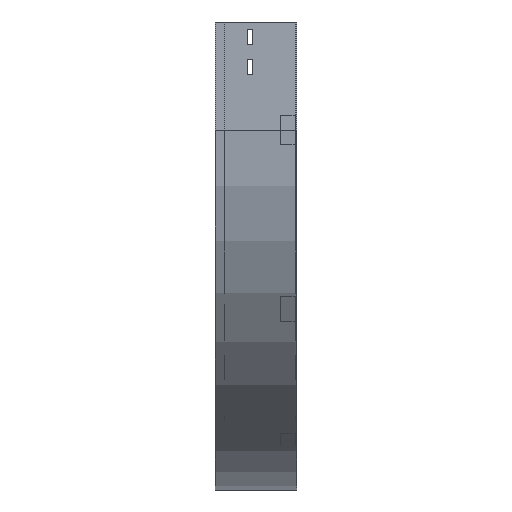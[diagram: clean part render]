
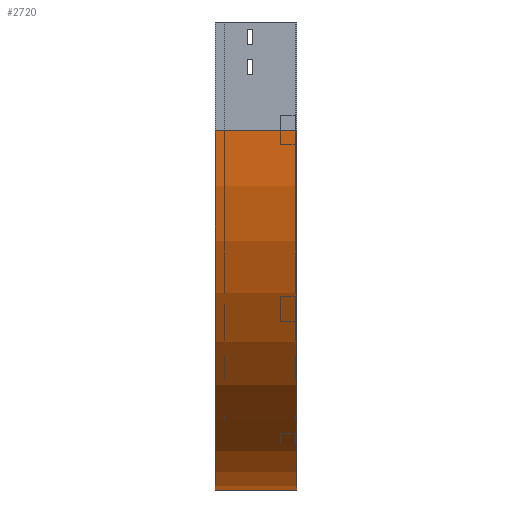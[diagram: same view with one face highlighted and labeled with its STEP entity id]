
A CAD part, left-side view. The second image highlights one B-rep face of the part: STEP entity #2720.
In plain terms, the highlighted cylindrical face has radius 500 mm (diameter 1000 mm), a partial arc.
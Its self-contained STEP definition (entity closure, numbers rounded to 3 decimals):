
#13 = DIRECTION ( 'NONE',  ( 0., -1., 0. ) ) ;
#51 = CARTESIAN_POINT ( 'NONE',  ( 500., 0., -150. ) ) ;
#98 = ORIENTED_EDGE ( 'NONE', *, *, #1199, .T. ) ;
#202 = CIRCLE ( 'NONE', #2213, 500. ) ;
#251 = DIRECTION ( 'NONE',  ( 0., 0., -1. ) ) ;
#276 = ORIENTED_EDGE ( 'NONE', *, *, #1323, .F. ) ;
#513 = LINE ( 'NONE', #3728, #1005 ) ;
#576 = AXIS2_PLACEMENT_3D ( 'NONE', #51, #3061, #1244 ) ;
#893 = DIRECTION ( 'NONE',  ( -1., 0., 0. ) ) ;
#1005 = VECTOR ( 'NONE', #2553, 1000. ) ;
#1199 = EDGE_CURVE ( 'NONE', #2737, #3188, #202, .T. ) ;
#1244 = DIRECTION ( 'NONE',  ( -1., 0., 0. ) ) ;
#1323 = EDGE_CURVE ( 'NONE', #3066, #2982, #2275, .T. ) ;
#1494 = ORIENTED_EDGE ( 'NONE', *, *, #1999, .F. ) ;
#1530 = LINE ( 'NONE', #3635, #2955 ) ;
#1621 = CARTESIAN_POINT ( 'NONE',  ( 500., 0., -650. ) ) ;
#1758 = DIRECTION ( 'NONE',  ( 0., -1., 0. ) ) ;
#1768 = DIRECTION ( 'NONE',  ( 0., -1., 0. ) ) ;
#1811 = CARTESIAN_POINT ( 'NONE',  ( 500., 0., -150. ) ) ;
#1999 = EDGE_CURVE ( 'NONE', #2737, #3066, #1530, .T. ) ;
#2213 = AXIS2_PLACEMENT_3D ( 'NONE', #3567, #13, #893 ) ;
#2275 = CIRCLE ( 'NONE', #576, 500. ) ;
#2390 = FACE_OUTER_BOUND ( 'NONE', #3653, .T. ) ;
#2408 = CYLINDRICAL_SURFACE ( 'NONE', #2642, 500. ) ;
#2553 = DIRECTION ( 'NONE',  ( 0., -1., 0. ) ) ;
#2573 = EDGE_CURVE ( 'NONE', #3188, #2982, #513, .T. ) ;
#2642 = AXIS2_PLACEMENT_3D ( 'NONE', #1811, #1758, #251 ) ;
#2720 = ADVANCED_FACE ( 'NONE', ( #2390 ), #2408, .T. ) ;
#2737 = VERTEX_POINT ( 'NONE', #3314 ) ;
#2912 = ORIENTED_EDGE ( 'NONE', *, *, #2573, .T. ) ;
#2931 = CARTESIAN_POINT ( 'NONE',  ( 500., 112.5, -650. ) ) ;
#2955 = VECTOR ( 'NONE', #1768, 1000. ) ;
#2982 = VERTEX_POINT ( 'NONE', #1621 ) ;
#3061 = DIRECTION ( 'NONE',  ( 0., -1., 0. ) ) ;
#3066 = VERTEX_POINT ( 'NONE', #3415 ) ;
#3188 = VERTEX_POINT ( 'NONE', #2931 ) ;
#3314 = CARTESIAN_POINT ( 'NONE',  ( 0., 112.5, -150. ) ) ;
#3415 = CARTESIAN_POINT ( 'NONE',  ( 0., 0., -150. ) ) ;
#3567 = CARTESIAN_POINT ( 'NONE',  ( 500., 112.5, -150. ) ) ;
#3635 = CARTESIAN_POINT ( 'NONE',  ( 0., 0., -150. ) ) ;
#3653 = EDGE_LOOP ( 'NONE', ( #276, #1494, #98, #2912 ) ) ;
#3728 = CARTESIAN_POINT ( 'NONE',  ( 500., 0., -650. ) ) ;
